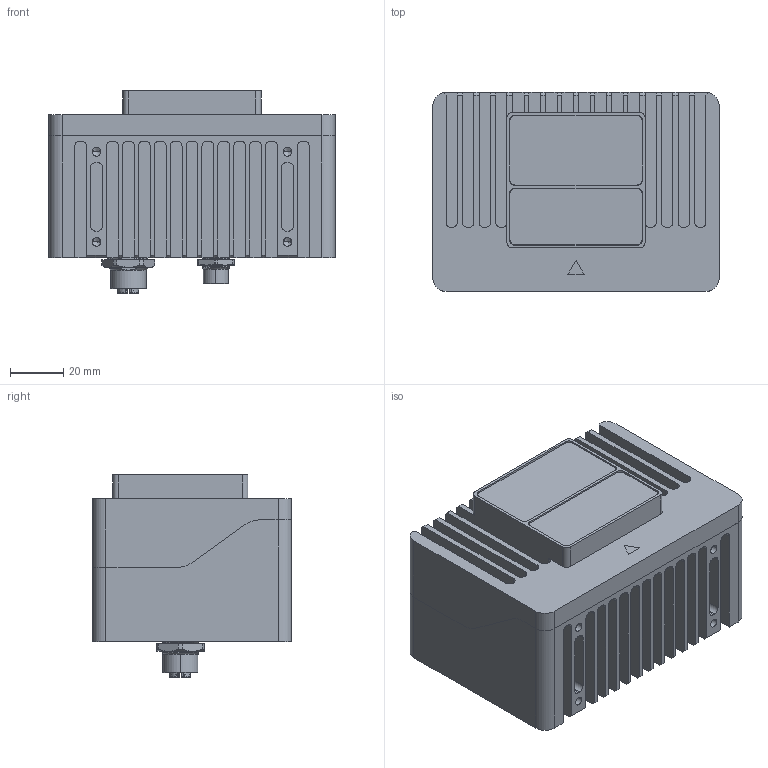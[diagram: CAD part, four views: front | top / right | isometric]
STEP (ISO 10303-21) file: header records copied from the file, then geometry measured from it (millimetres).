
FILE_DESCRIPTION (( 'STEP AP214' ), '1' );
FILE_NAME ('DS-SQ 褲极-20260506.STEP', '2026-05-06T02:10:07', ( '' ), ( '' ), 'SwSTEP 2.0', 'SolidWorks 2020', '' );
FILE_SCHEMA (( 'AUTOMOTIVE_DESIGN' ));
Length unit declared in the file: millimetre
Products named in the file (1): DS-SQ 褲极-20260506
Bounding box: 108 x 75 x 76.4 mm (x, y, z)
Surface area: 117530.7 mm2 (no closed solid volume)
Topology: 0 solids, 27 shells, 3036 faces, 8199 edges, 5261 vertices
Faces by surface type: plane 1132, cylinder 1002, cone 449, bspline 448, torus 5
Full cylindrical faces by diameter (mm): 8 x2, 12.1 x1
Entity records: 166767 total; most frequent: CARTESIAN_POINT 61889, ORIENTED_EDGE 15962, DIRECTION 13417, EDGE_CURVE 8037, VERTEX_POINT 5242, AXIS2_PLACEMENT_3D 4744, VECTOR 3929, LINE 3929
